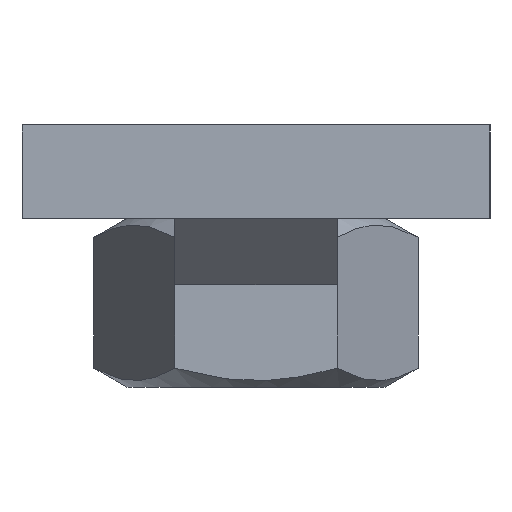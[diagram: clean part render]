
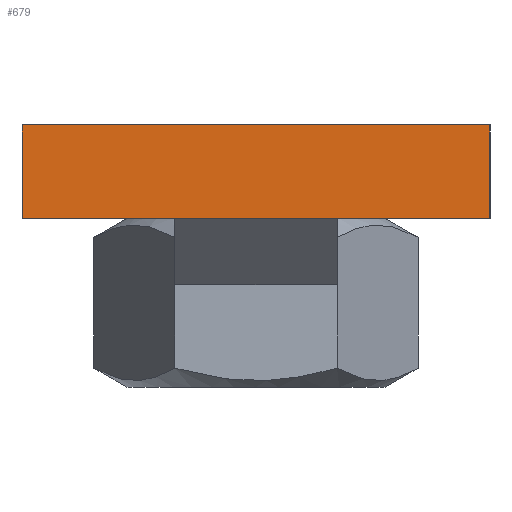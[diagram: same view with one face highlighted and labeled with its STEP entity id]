
A CAD part, left-side view. The second image highlights one B-rep face of the part: STEP entity #679.
In plain terms, the highlighted planar face has unit normal (-1, 0, 0).
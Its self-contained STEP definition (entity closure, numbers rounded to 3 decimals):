
#141=FACE_OUTER_BOUND('',#193,.T.);
#193=EDGE_LOOP('',(#546,#547,#548,#549));
#263=LINE('',#1075,#311);
#265=LINE('',#1079,#313);
#266=LINE('',#1081,#314);
#267=LINE('',#1082,#315);
#311=VECTOR('',#889,6.);
#313=VECTOR('',#893,30.);
#314=VECTOR('',#894,6.);
#315=VECTOR('',#895,30.);
#362=VERTEX_POINT('',#1072);
#363=VERTEX_POINT('',#1074);
#364=VERTEX_POINT('',#1078);
#365=VERTEX_POINT('',#1080);
#433=EDGE_CURVE('',#363,#362,#263,.T.);
#435=EDGE_CURVE('',#362,#364,#265,.T.);
#436=EDGE_CURVE('',#365,#364,#266,.T.);
#437=EDGE_CURVE('',#363,#365,#267,.T.);
#546=ORIENTED_EDGE('',*,*,#435,.T.);
#547=ORIENTED_EDGE('',*,*,#436,.F.);
#548=ORIENTED_EDGE('',*,*,#437,.F.);
#549=ORIENTED_EDGE('',*,*,#433,.T.);
#641=PLANE('',#742);
#679=ADVANCED_FACE('',(#141),#641,.T.);
#742=AXIS2_PLACEMENT_3D('',#1077,#891,#892);
#889=DIRECTION('',(0.,0.,1.));
#891=DIRECTION('center_axis',(-1.,0.,0.));
#892=DIRECTION('ref_axis',(0.,0.,1.));
#893=DIRECTION('',(0.,1.,0.));
#894=DIRECTION('',(0.,0.,1.));
#895=DIRECTION('',(0.,1.,0.));
#1072=CARTESIAN_POINT('',(-90.,-15.,6.));
#1074=CARTESIAN_POINT('',(-90.,-15.,0.));
#1075=CARTESIAN_POINT('',(-90.,-15.,0.));
#1077=CARTESIAN_POINT('Origin',(-90.,-15.,0.));
#1078=CARTESIAN_POINT('',(-90.,15.,6.));
#1079=CARTESIAN_POINT('',(-90.,-15.,6.));
#1080=CARTESIAN_POINT('',(-90.,15.,0.));
#1081=CARTESIAN_POINT('',(-90.,15.,0.));
#1082=CARTESIAN_POINT('',(-90.,-15.,0.));
